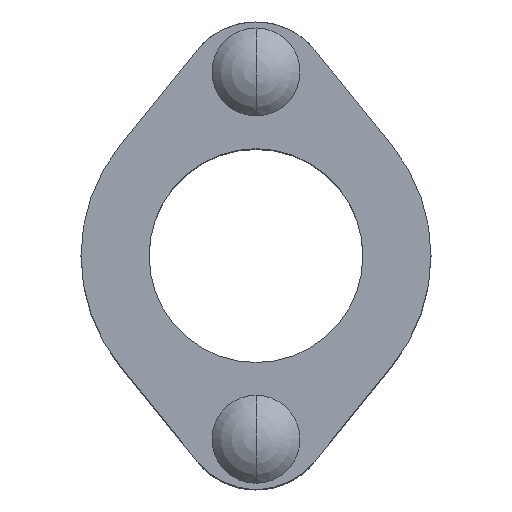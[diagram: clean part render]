
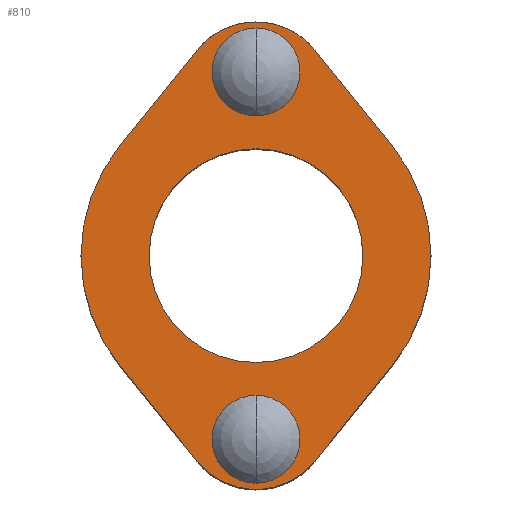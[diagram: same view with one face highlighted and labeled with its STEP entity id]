
A CAD part, top view. The second image highlights one B-rep face of the part: STEP entity #810.
In plain terms, the highlighted planar face has unit normal (0, 0, 1).
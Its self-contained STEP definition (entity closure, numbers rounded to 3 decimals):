
#249=CARTESIAN_POINT('',(0.,0.,0.));
#250=DIRECTION('',(0.,0.,1.));
#251=DIRECTION('',(0.,1.,0.));
#252=AXIS2_PLACEMENT_3D('',#249,#250,#251);
#258=CARTESIAN_POINT('',(0.,0.,0.));
#259=DIRECTION('',(0.,0.,-1.));
#260=DIRECTION('',(0.,1.,0.));
#261=AXIS2_PLACEMENT_3D('',#258,#259,#260);
#267=DIRECTION('',(0.628,0.778,0.));
#268=VECTOR('',#267,35.588);
#269=CARTESIAN_POINT('',(17.113,-59.575,
0.));
#270=LINE('',#269,#268);
#271=CARTESIAN_POINT('',(0.,-45.75,0.));
#272=DIRECTION('',(0.,0.,1.));
#273=DIRECTION('',(-0.778,-0.628,0.));
#274=AXIS2_PLACEMENT_3D('',#271,#272,#273);
#276=DIRECTION('',(0.628,-0.778,0.));
#277=VECTOR('',#276,35.588);
#278=CARTESIAN_POINT('',(-39.477,-31.892,0.));
#279=LINE('',#278,#277);
#280=DIRECTION('',(-0.628,-0.778,0.));
#281=VECTOR('',#280,35.588);
#282=CARTESIAN_POINT('',(-17.113,59.575,0.));
#283=LINE('',#282,#281);
#284=CARTESIAN_POINT('',(0.,45.75,0.));
#285=DIRECTION('',(0.,0.,1.));
#286=DIRECTION('',(0.778,0.628,0.));
#287=AXIS2_PLACEMENT_3D('',#284,#285,#286);
#289=DIRECTION('',(-0.628,0.778,0.));
#290=VECTOR('',#289,35.588);
#291=CARTESIAN_POINT('',(39.477,31.892,0.));
#292=LINE('',#291,#290);
#297=CARTESIAN_POINT('',(0.,0.,0.));
#298=DIRECTION('',(0.,0.,1.));
#299=DIRECTION('',(0.778,-0.628,0.));
#300=AXIS2_PLACEMENT_3D('',#297,#298,#299);
#311=CARTESIAN_POINT('',(0.,0.,0.));
#312=DIRECTION('',(0.,0.,1.));
#313=DIRECTION('',(-0.778,0.628,0.));
#314=AXIS2_PLACEMENT_3D('',#311,#312,#313);
#665=CARTESIAN_POINT('',(0.,31.,0.));
#667=VERTEX_POINT('',#665);
#669=CARTESIAN_POINT('',(0.,-31.,0.));
#671=VERTEX_POINT('',#669);
#673=CARTESIAN_POINT('',(17.113,59.575,0.));
#674=CARTESIAN_POINT('',(-17.113,59.575,0.));
#675=VERTEX_POINT('',#673);
#676=VERTEX_POINT('',#674);
#680=CARTESIAN_POINT('',(-39.477,31.892,0.));
#682=VERTEX_POINT('',#680);
#683=CARTESIAN_POINT('',(-17.113,-59.575,
0.));
#684=CARTESIAN_POINT('',(17.113,-59.575,
0.));
#685=VERTEX_POINT('',#683);
#686=VERTEX_POINT('',#684);
#690=CARTESIAN_POINT('',(39.477,-31.892,0.));
#692=VERTEX_POINT('',#690);
#693=CARTESIAN_POINT('',(-39.477,-31.892,0.));
#694=VERTEX_POINT('',#693);
#695=CARTESIAN_POINT('',(39.477,31.892,0.));
#696=VERTEX_POINT('',#695);
#783=CARTESIAN_POINT('',(0.,0.,0.));
#784=DIRECTION('',(0.,0.,1.));
#785=DIRECTION('',(0.,1.,0.));
#786=AXIS2_PLACEMENT_3D('',#783,#784,#785);
#787=PLANE('',#786);
#789=ORIENTED_EDGE('',*,*,#788,.F.);
#791=ORIENTED_EDGE('',*,*,#790,.F.);
#793=ORIENTED_EDGE('',*,*,#792,.F.);
#795=ORIENTED_EDGE('',*,*,#794,.F.);
#797=ORIENTED_EDGE('',*,*,#796,.F.);
#799=ORIENTED_EDGE('',*,*,#798,.F.);
#801=ORIENTED_EDGE('',*,*,#800,.F.);
#803=ORIENTED_EDGE('',*,*,#802,.F.);
#804=EDGE_LOOP('',(#789,#791,#793,#795,#797,#799,#801,#803));
#805=FACE_OUTER_BOUND('',#804,.F.);
#806=ORIENTED_EDGE('',*,*,#775,.F.);
#807=ORIENTED_EDGE('',*,*,#764,.T.);
#808=EDGE_LOOP('',(#806,#807));
#809=FACE_BOUND('',#808,.F.);
#810=ADVANCED_FACE('',(#805,#809),#787,.T.);
#253=CIRCLE('',#252,31.);
#262=CIRCLE('',#261,31.);
#275=CIRCLE('',#274,22.);
#288=CIRCLE('',#287,22.);
#301=CIRCLE('',#300,50.75);
#315=CIRCLE('',#314,50.75);
#764=EDGE_CURVE('',#667,#671,#253,.T.);
#775=EDGE_CURVE('',#667,#671,#262,.T.);
#788=EDGE_CURVE('',#692,#696,#301,.T.);
#790=EDGE_CURVE('',#686,#692,#270,.T.);
#792=EDGE_CURVE('',#685,#686,#275,.T.);
#794=EDGE_CURVE('',#694,#685,#279,.T.);
#796=EDGE_CURVE('',#682,#694,#315,.T.);
#798=EDGE_CURVE('',#676,#682,#283,.T.);
#800=EDGE_CURVE('',#675,#676,#288,.T.);
#802=EDGE_CURVE('',#696,#675,#292,.T.);
